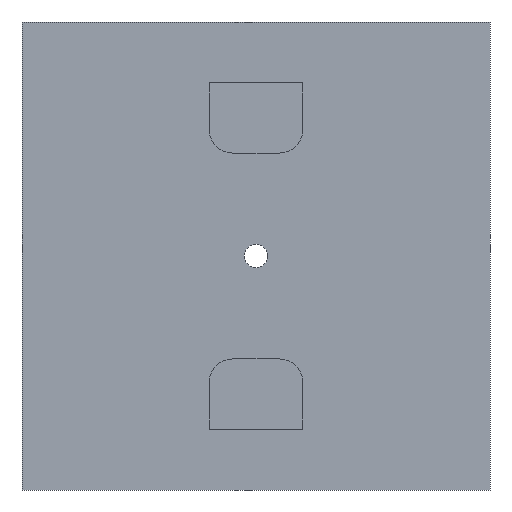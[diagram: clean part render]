
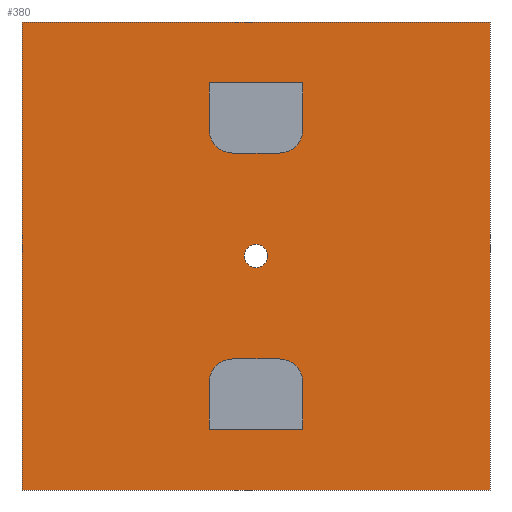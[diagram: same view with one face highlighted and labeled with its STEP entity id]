
A CAD part, front view. The second image highlights one B-rep face of the part: STEP entity #380.
In plain terms, the highlighted planar face has unit normal (0, -1, 0).
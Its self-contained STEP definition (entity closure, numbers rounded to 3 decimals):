
#15=FACE_BOUND('',#72,.T.);
#16=FACE_BOUND('',#73,.T.);
#17=FACE_BOUND('',#74,.T.);
#29=PLANE('',#425);
#50=FACE_OUTER_BOUND('',#71,.T.);
#71=EDGE_LOOP('',(#322,#323,#324,#325));
#72=EDGE_LOOP('',(#326,#327,#328,#329,#330,#331));
#73=EDGE_LOOP('',(#332,#333,#334,#335,#336,#337));
#74=EDGE_LOOP('',(#338));
#85=LINE('',#551,#126);
#93=LINE('',#574,#134);
#100=LINE('',#595,#141);
#102=LINE('',#599,#143);
#105=LINE('',#604,#146);
#106=LINE('',#606,#147);
#107=LINE('',#608,#148);
#108=LINE('',#610,#149);
#110=LINE('',#620,#151);
#111=LINE('',#622,#152);
#112=LINE('',#624,#153);
#113=LINE('',#625,#154);
#126=VECTOR('',#445,10.);
#134=VECTOR('',#465,10.);
#141=VECTOR('',#486,10.);
#143=VECTOR('',#490,10.);
#146=VECTOR('',#495,10.);
#147=VECTOR('',#498,10.);
#148=VECTOR('',#501,10.);
#149=VECTOR('',#504,10.);
#151=VECTOR('',#514,10.);
#152=VECTOR('',#515,10.);
#153=VECTOR('',#516,10.);
#154=VECTOR('',#517,10.);
#164=CIRCLE('',#402,0.5);
#167=CIRCLE('',#408,0.5);
#169=CIRCLE('',#413,0.5);
#170=CIRCLE('',#415,0.5);
#171=CIRCLE('',#423,0.25);
#175=VERTEX_POINT('',#541);
#176=VERTEX_POINT('',#543);
#178=VERTEX_POINT('',#549);
#184=VERTEX_POINT('',#564);
#185=VERTEX_POINT('',#566);
#187=VERTEX_POINT('',#572);
#191=VERTEX_POINT('',#584);
#192=VERTEX_POINT('',#588);
#193=VERTEX_POINT('',#590);
#194=VERTEX_POINT('',#594);
#195=VERTEX_POINT('',#598);
#196=VERTEX_POINT('',#602);
#197=VERTEX_POINT('',#612);
#199=VERTEX_POINT('',#618);
#200=VERTEX_POINT('',#619);
#201=VERTEX_POINT('',#621);
#202=VERTEX_POINT('',#623);
#209=EDGE_CURVE('',#175,#176,#164,.F.);
#213=EDGE_CURVE('',#175,#178,#85,.T.);
#220=EDGE_CURVE('',#184,#185,#167,.F.);
#224=EDGE_CURVE('',#184,#187,#93,.T.);
#230=EDGE_CURVE('',#191,#187,#169,.F.);
#232=EDGE_CURVE('',#192,#193,#170,.F.);
#234=EDGE_CURVE('',#194,#193,#100,.T.);
#236=EDGE_CURVE('',#195,#185,#102,.T.);
#239=EDGE_CURVE('',#191,#196,#105,.T.);
#240=EDGE_CURVE('',#196,#195,#106,.T.);
#241=EDGE_CURVE('',#178,#194,#107,.T.);
#242=EDGE_CURVE('',#192,#176,#108,.T.);
#243=EDGE_CURVE('',#197,#197,#171,.T.);
#246=EDGE_CURVE('',#199,#200,#110,.T.);
#247=EDGE_CURVE('',#200,#201,#111,.T.);
#248=EDGE_CURVE('',#202,#201,#112,.T.);
#249=EDGE_CURVE('',#199,#202,#113,.T.);
#322=ORIENTED_EDGE('',*,*,#246,.T.);
#323=ORIENTED_EDGE('',*,*,#247,.T.);
#324=ORIENTED_EDGE('',*,*,#248,.F.);
#325=ORIENTED_EDGE('',*,*,#249,.F.);
#326=ORIENTED_EDGE('',*,*,#236,.T.);
#327=ORIENTED_EDGE('',*,*,#220,.F.);
#328=ORIENTED_EDGE('',*,*,#224,.T.);
#329=ORIENTED_EDGE('',*,*,#230,.F.);
#330=ORIENTED_EDGE('',*,*,#239,.T.);
#331=ORIENTED_EDGE('',*,*,#240,.T.);
#332=ORIENTED_EDGE('',*,*,#241,.T.);
#333=ORIENTED_EDGE('',*,*,#234,.T.);
#334=ORIENTED_EDGE('',*,*,#232,.F.);
#335=ORIENTED_EDGE('',*,*,#242,.T.);
#336=ORIENTED_EDGE('',*,*,#209,.F.);
#337=ORIENTED_EDGE('',*,*,#213,.T.);
#338=ORIENTED_EDGE('',*,*,#243,.T.);
#380=ADVANCED_FACE('',(#50,#15,#16,#17),#29,.T.);
#402=AXIS2_PLACEMENT_3D('',#544,#438,#439);
#408=AXIS2_PLACEMENT_3D('',#567,#458,#459);
#413=AXIS2_PLACEMENT_3D('',#586,#476,#477);
#415=AXIS2_PLACEMENT_3D('',#591,#481,#482);
#423=AXIS2_PLACEMENT_3D('',#613,#507,#508);
#425=AXIS2_PLACEMENT_3D('',#617,#512,#513);
#438=DIRECTION('center_axis',(0.,1.,0.));
#439=DIRECTION('ref_axis',(-0.707,0.,-0.707));
#445=DIRECTION('',(0.,0.,1.));
#458=DIRECTION('center_axis',(0.,1.,0.));
#459=DIRECTION('ref_axis',(-0.707,0.,0.707));
#465=DIRECTION('',(1.,0.,0.));
#476=DIRECTION('center_axis',(0.,1.,0.));
#477=DIRECTION('ref_axis',(0.707,0.,0.707));
#481=DIRECTION('center_axis',(0.,1.,0.));
#482=DIRECTION('ref_axis',(0.707,0.,-0.707));
#486=DIRECTION('',(0.,0.,-1.));
#490=DIRECTION('',(0.,0.,1.));
#495=DIRECTION('',(0.,0.,-1.));
#498=DIRECTION('',(-1.,0.,0.));
#501=DIRECTION('',(1.,0.,0.));
#504=DIRECTION('',(-1.,0.,0.));
#507=DIRECTION('center_axis',(0.,1.,0.));
#508=DIRECTION('ref_axis',(1.,0.,0.));
#512=DIRECTION('center_axis',(0.,-1.,0.));
#513=DIRECTION('ref_axis',(1.,0.,0.));
#514=DIRECTION('',(1.,0.,0.));
#515=DIRECTION('',(0.,0.,1.));
#516=DIRECTION('',(1.,0.,0.));
#517=DIRECTION('',(0.,0.,1.));
#541=CARTESIAN_POINT('',(-1.,-5.25,7.7));
#543=CARTESIAN_POINT('',(-0.5,-5.25,7.2));
#544=CARTESIAN_POINT('Origin',(-0.5,-5.25,7.7));
#549=CARTESIAN_POINT('',(-1.,-5.25,8.7));
#551=CARTESIAN_POINT('',(-1.,-5.25,4.35));
#564=CARTESIAN_POINT('',(-0.5,-5.25,2.8));
#566=CARTESIAN_POINT('',(-1.,-5.25,2.3));
#567=CARTESIAN_POINT('Origin',(-0.5,-5.25,2.3));
#572=CARTESIAN_POINT('',(0.5,-5.25,2.8));
#574=CARTESIAN_POINT('',(-2.,-5.25,2.8));
#584=CARTESIAN_POINT('',(1.,-5.25,2.3));
#586=CARTESIAN_POINT('Origin',(0.5,-5.25,2.3));
#588=CARTESIAN_POINT('',(0.5,-5.25,7.2));
#590=CARTESIAN_POINT('',(1.,-5.25,7.7));
#591=CARTESIAN_POINT('Origin',(0.5,-5.25,7.7));
#594=CARTESIAN_POINT('',(1.,-5.25,8.7));
#595=CARTESIAN_POINT('',(1.,-5.25,3.6));
#598=CARTESIAN_POINT('',(-1.,-5.25,1.3));
#599=CARTESIAN_POINT('',(-1.,-5.25,1.4));
#602=CARTESIAN_POINT('',(1.,-5.25,1.3));
#604=CARTESIAN_POINT('',(1.,-5.25,0.65));
#606=CARTESIAN_POINT('',(-3.,-5.25,1.3));
#608=CARTESIAN_POINT('',(-2.,-5.25,8.7));
#610=CARTESIAN_POINT('',(-3.,-5.25,7.2));
#612=CARTESIAN_POINT('',(-0.25,-5.25,5.));
#613=CARTESIAN_POINT('Origin',(0.,-5.25,5.));
#617=CARTESIAN_POINT('Origin',(-5.,-5.25,0.));
#618=CARTESIAN_POINT('',(-5.,-5.25,0.));
#619=CARTESIAN_POINT('',(5.,-5.25,0.));
#620=CARTESIAN_POINT('',(-5.,-5.25,0.));
#621=CARTESIAN_POINT('',(5.,-5.25,10.));
#622=CARTESIAN_POINT('',(5.,-5.25,0.));
#623=CARTESIAN_POINT('',(-5.,-5.25,10.));
#624=CARTESIAN_POINT('',(-5.,-5.25,10.));
#625=CARTESIAN_POINT('',(-5.,-5.25,0.));
